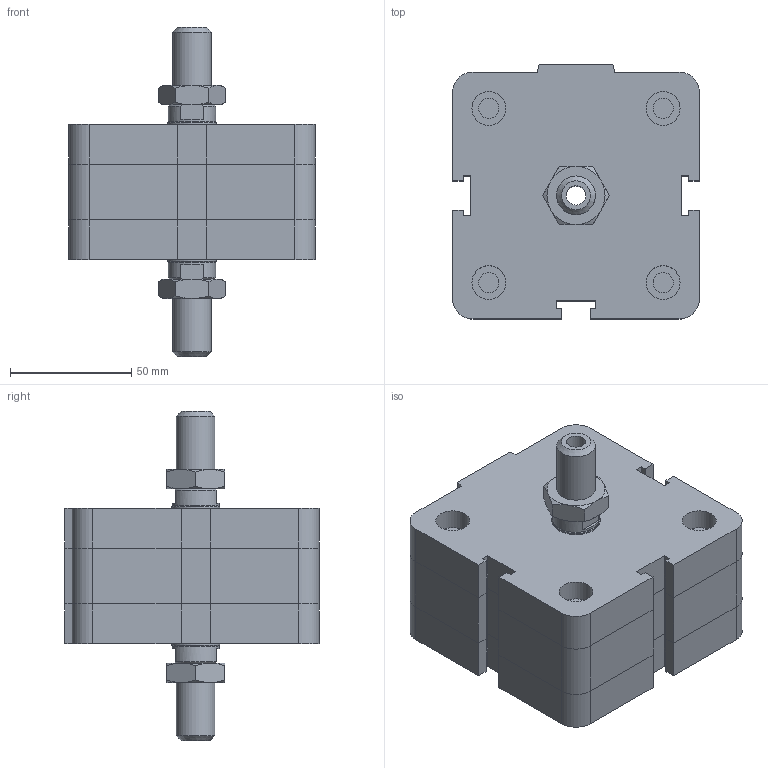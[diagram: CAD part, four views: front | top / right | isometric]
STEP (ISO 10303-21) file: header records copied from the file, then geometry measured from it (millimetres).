
FILE_DESCRIPTION((''),'2;1');
FILE_NAME('I:\Area Tecnica\Disegni\VARIE-3D\Componenti\EUROPE\15##_###_####_05_#\1561_80_0000_05_1.iam.stp','2009-04-20T14:57:22',(''),(''),'Autodesk Inventor 2009','Autodesk Inventor 2009','');
FILE_SCHEMA(('AUTOMOTIVE_DESIGN { 1 0 10303 214 1 1 1 1 }'));
Length unit declared in the file: millimetre
Products named in the file (4): 1561_80_0000_05_1; 1561_80_0000_03_1_C; 1561_80_0000_05_1_S; DBFM16
Assembly tree (4 placements, depth 2):
  1561_80_0000_05_1
    1561_80_0000_03_1_C
    1561_80_0000_05_1_S
    DBFM16  x2
Bounding box: 102 x 105 x 136 mm (x, y, z)
Volume: 564797.1 mm3; surface area: 70731.1 mm2
Topology: 4 solids, 4 shells, 223 faces, 486 edges, 291 vertices
Faces by surface type: plane 129, cone 37, bspline 32, cylinder 25
Full cylindrical faces by diameter (mm): 8.376 x4, 14 x4, 14.5 x1, 16 x1, 19.5 x2, 20 x1
Entity records: 5484 total; most frequent: CARTESIAN_POINT 1227, DIRECTION 808, ORIENTED_EDGE 776, EDGE_CURVE 388, AXIS2_PLACEMENT_3D 275, EDGE_LOOP 262, VECTOR 258, LINE 258
